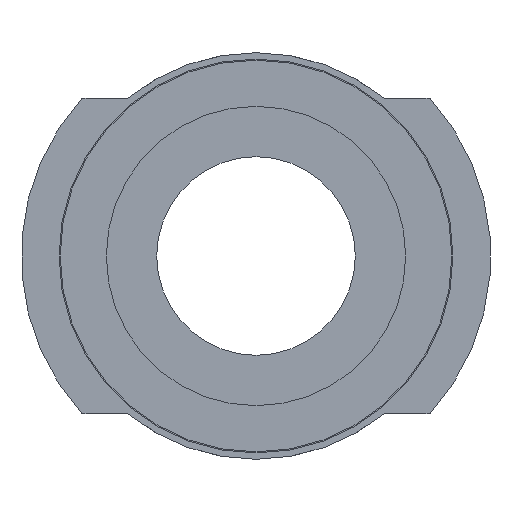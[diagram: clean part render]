
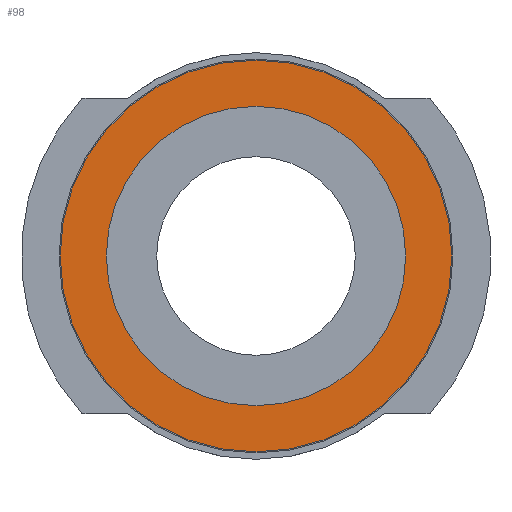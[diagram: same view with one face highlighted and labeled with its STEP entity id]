
A CAD part, left-side view. The second image highlights one B-rep face of the part: STEP entity #98.
In plain terms, the highlighted planar face has unit normal (-1, 0, 0).
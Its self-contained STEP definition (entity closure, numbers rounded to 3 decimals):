
#98 = ADVANCED_FACE( '', ( #167, #168 ), #169, .F. );
#167 = FACE_BOUND( '', #259, .T. );
#168 = FACE_OUTER_BOUND( '', #260, .T. );
#169 = PLANE( '', #261 );
#259 = EDGE_LOOP( '', ( #465 ) );
#260 = EDGE_LOOP( '', ( #466 ) );
#261 = AXIS2_PLACEMENT_3D( '', #467, #468, #469 );
#465 = ORIENTED_EDGE( '', *, *, #588, .F. );
#466 = ORIENTED_EDGE( '', *, *, #587, .T. );
#467 = CARTESIAN_POINT( '', ( -16.5, 0., 6.215 ) );
#468 = DIRECTION( '', ( 1., 0., 0. ) );
#469 = DIRECTION( '', ( 0., 0., -1. ) );
#587 = EDGE_CURVE( '', #690, #690, #691, .T. );
#588 = EDGE_CURVE( '', #692, #692, #693, .T. );
#690 = VERTEX_POINT( '', #836 );
#691 = CIRCLE( '', #837, 6.215 );
#692 = VERTEX_POINT( '', #838 );
#693 = CIRCLE( '', #839, 4.75 );
#836 = CARTESIAN_POINT( '', ( -16.5, 0., 6.215 ) );
#837 = AXIS2_PLACEMENT_3D( '', #954, #955, #956 );
#838 = CARTESIAN_POINT( '', ( -16.5, 0., 4.75 ) );
#839 = AXIS2_PLACEMENT_3D( '', #957, #958, #959 );
#954 = CARTESIAN_POINT( '', ( -16.5, 0., 0. ) );
#955 = DIRECTION( '', ( -1., 0., 0. ) );
#956 = DIRECTION( '', ( 0., 0., 1. ) );
#957 = CARTESIAN_POINT( '', ( -16.5, 0., 0. ) );
#958 = DIRECTION( '', ( -1., 0., 0. ) );
#959 = DIRECTION( '', ( 0., 0., 1. ) );
